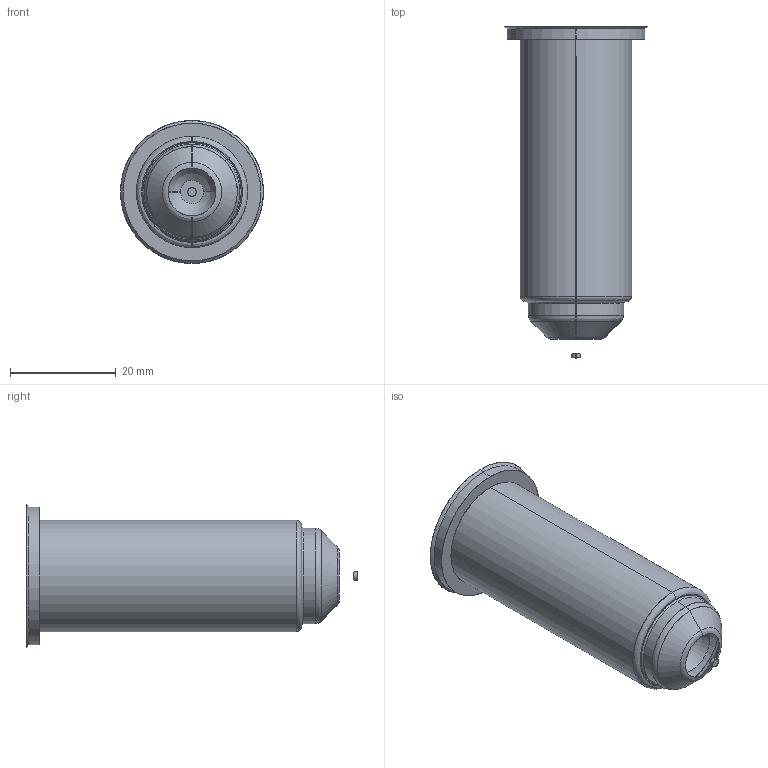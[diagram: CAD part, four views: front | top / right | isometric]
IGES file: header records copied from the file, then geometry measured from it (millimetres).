
Start section: SolidWorks IGES file using analytic representation for surfaces
Global section: file name: C:\Documents and Settings\ws-20\Desktop\TEM\Sede UGER2502-M-A C-60 L-90 Ød-1.5.IGS; native system: SolidWorks 2012; preprocessor: SolidWorks 2012; author: ws-20; date: 120405.111639; units: millimetre
Bounding box: 27 x 62.65 x 27 mm (x, y, z)
Surface area: 4863.5 mm2 (no closed solid volume)
Topology: 0 solids, 0 shells, 27 faces, 332 edges, 332 vertices
Faces by surface type: revolution 16, bspline 11
